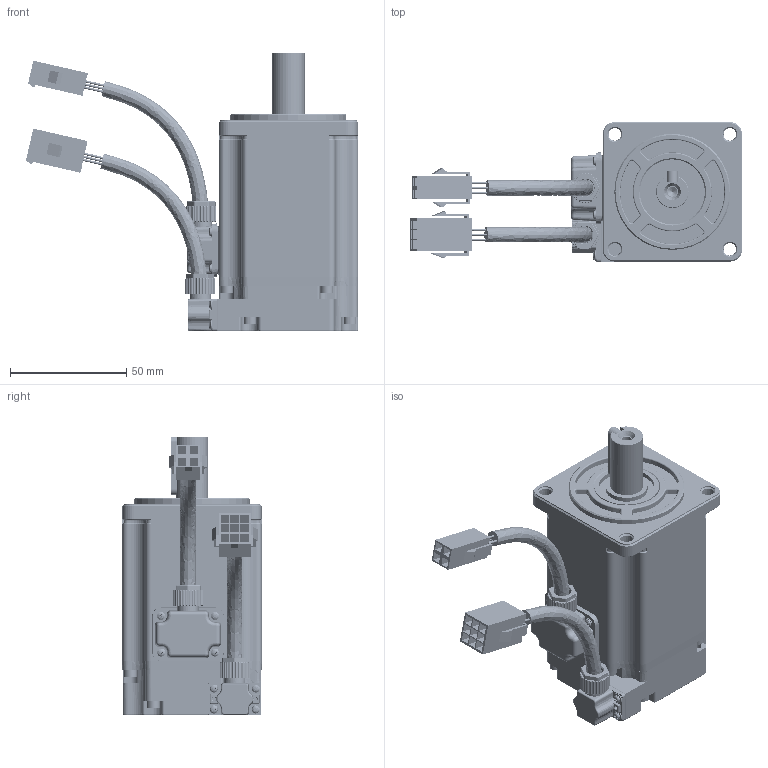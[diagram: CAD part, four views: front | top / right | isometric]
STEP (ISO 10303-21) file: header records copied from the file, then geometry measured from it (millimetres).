
FILE_DESCRIPTION (( 'STEP AP203' ), '1' );
FILE_NAME ('60-400w郪蚾.STEP', '2024-07-11T05:54:44', ( 'MicroSoft' ), ( 'MicroSoft' ), 'SwSTEP 2.0', 'SolidWorks 2020', '' );
FILE_SCHEMA (( 'CONFIG_CONTROL_DESIGN' ));
Length unit declared in the file: millimetre
Products named in the file (19): 晤鎢ん1.stp; 60陔綴裔; GB╱T 70.1-2008[内六角圆柱头螺钉M3×10]_M3×10; GB／T276-94深沟球轴承6202-2RZ; GB╱T 818-2000[十字槽盘头螺钉M2×6]_M2×6; sc-mc7p-a6-zhichuxianchazuo; ZE60儂褲-60A; 陓瘍盄 (2); Z60A-01-01(60怮栠喘粣)_400w; 塑壳接插座-4芯(母头线束端); 晤鎢ん2.stp; 塑壳接插座-9芯(母头线束端); 60呿蹋裔.stp; GB╱T 70.1-2008[内六角圆柱头螺钉M3×25]_M3×25; 嘎殤蚐猾28-14-4; 粣創nsk  629Z; 萇埭盄; 60-400w郪蚾; sc-mc6p-ac-goubanchazuo
Assembly tree (31 placements, depth 2):
  60-400w郪蚾
    GB／T276-94深沟球轴承6202-2RZ
    Z60A-01-01(60怮栠喘粣)_400w
    粣創nsk  629Z
    60陔綴裔
    ZE60儂褲-60A
    60呿蹋裔.stp
    晤鎢ん1.stp
    晤鎢ん2.stp
    GB╱T 818-2000[十字槽盘头螺钉M2×6]_M2×6  x8
    GB╱T 70.1-2008[内六角圆柱头螺钉M3×10]_M3×10  x4
    GB╱T 70.1-2008[内六角圆柱头螺钉M3×25]_M3×25  x4
    嘎殤蚐猾28-14-4
    塑壳接插座-4芯(母头线束端)
    萇埭盄
    陓瘍盄 (2)
    塑壳接插座-9芯(母头线束端)
    sc-mc6p-ac-goubanchazuo
    sc-mc7p-a6-zhichuxianchazuo
Bounding box: 142.99 x 60 x 120 mm (x, y, z)
Volume: 134452.2 mm3; surface area: 111346 mm2
Topology: 42 solids, 42 shells, 5912 faces, 15127 edges, 9354 vertices
Faces by surface type: plane 2655, cylinder 1610, bspline 695, cone 499, torus 333, sphere 120
Entity records: 211469 total; most frequent: CARTESIAN_POINT 83938, ORIENTED_EDGE 27342, DIRECTION 24129, EDGE_CURVE 13671, VERTEX_POINT 8596, AXIS2_PLACEMENT_3D 8322, VECTOR 7485, LINE 7485
